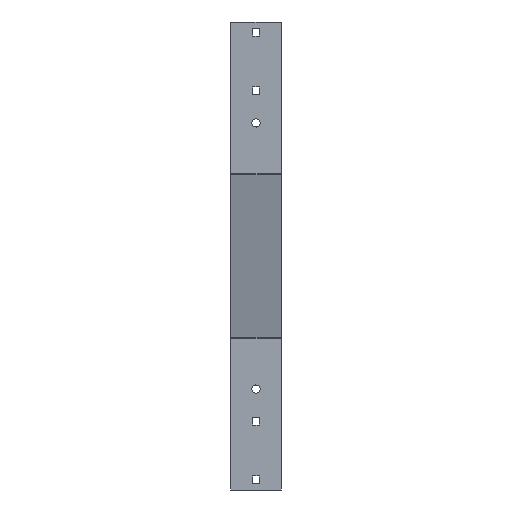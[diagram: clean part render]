
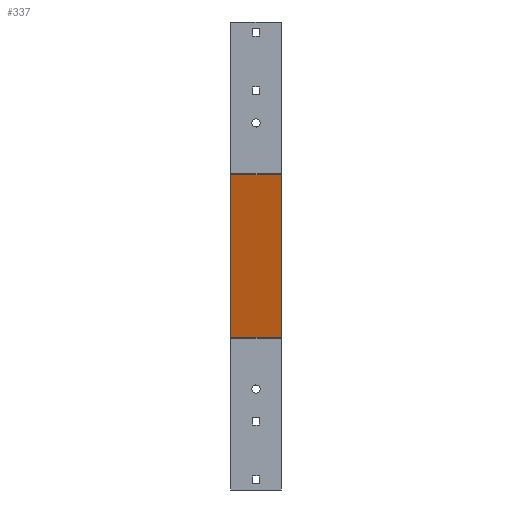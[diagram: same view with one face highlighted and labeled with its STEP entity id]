
A CAD part, left-side view. The second image highlights one B-rep face of the part: STEP entity #337.
In plain terms, the highlighted planar face has unit normal (-0.966, 0, -0.259) as drawn and (0.966, 0, -0.259) by its records, which use the part's own axes.
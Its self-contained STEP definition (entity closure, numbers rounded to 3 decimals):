
#276 = DIRECTION ( 'NONE',  ( 0., 1., 0. ) ) ;
#337 = ADVANCED_FACE ( 'NONE', ( #1708 ), #7874, .F. ) ;
#368 = VECTOR ( 'NONE', #7148, 1000. ) ;
#475 = CARTESIAN_POINT ( 'NONE',  ( 226.881, 0., -0.708 ) ) ;
#867 = CARTESIAN_POINT ( 'NONE',  ( 226.881, 87., -0.708 ) ) ;
#994 = VECTOR ( 'NONE', #276, 1000. ) ;
#1058 = CARTESIAN_POINT ( 'NONE',  ( 226.881, 0., -0.708 ) ) ;
#1207 = LINE ( 'NONE', #4883, #6332 ) ;
#1485 = VECTOR ( 'NONE', #6609, 1000. ) ;
#1597 = DIRECTION ( 'NONE',  ( -0.966, 0., 0.259 ) ) ;
#1703 = LINE ( 'NONE', #4717, #368 ) ;
#1708 = FACE_OUTER_BOUND ( 'NONE', #2810, .T. ) ;
#1811 = DIRECTION ( 'NONE',  ( -0.259, 0., -0.966 ) ) ;
#2114 = CARTESIAN_POINT ( 'NONE',  ( 152.051, 0., -280.073 ) ) ;
#2180 = VERTEX_POINT ( 'NONE', #6608 ) ;
#2430 = AXIS2_PLACEMENT_3D ( 'NONE', #5995, #1597, #4043 ) ;
#2437 = EDGE_CURVE ( 'NONE', #4092, #2180, #1703, .T. ) ;
#2810 = EDGE_LOOP ( 'NONE', ( #6232, #5903, #5827, #5248 ) ) ;
#4043 = DIRECTION ( 'NONE',  ( 0.259, 0., 0.966 ) ) ;
#4092 = VERTEX_POINT ( 'NONE', #475 ) ;
#4519 = EDGE_CURVE ( 'NONE', #4092, #6713, #6569, .T. ) ;
#4717 = CARTESIAN_POINT ( 'NONE',  ( 226.932, 0., -0.517 ) ) ;
#4883 = CARTESIAN_POINT ( 'NONE',  ( 226.932, 87., -0.517 ) ) ;
#5248 = ORIENTED_EDGE ( 'NONE', *, *, #4519, .F. ) ;
#5541 = EDGE_CURVE ( 'NONE', #6713, #7080, #1207, .T. ) ;
#5827 = ORIENTED_EDGE ( 'NONE', *, *, #5541, .F. ) ;
#5902 = LINE ( 'NONE', #2114, #994 ) ;
#5903 = ORIENTED_EDGE ( 'NONE', *, *, #6855, .T. ) ;
#5995 = CARTESIAN_POINT ( 'NONE',  ( 226.932, 87., -0.517 ) ) ;
#6173 = CARTESIAN_POINT ( 'NONE',  ( 152.051, 87., -280.073 ) ) ;
#6232 = ORIENTED_EDGE ( 'NONE', *, *, #2437, .T. ) ;
#6332 = VECTOR ( 'NONE', #1811, 1000. ) ;
#6569 = LINE ( 'NONE', #1058, #1485 ) ;
#6608 = CARTESIAN_POINT ( 'NONE',  ( 152.051, 0., -280.073 ) ) ;
#6609 = DIRECTION ( 'NONE',  ( 0., 1., 0. ) ) ;
#6713 = VERTEX_POINT ( 'NONE', #867 ) ;
#6855 = EDGE_CURVE ( 'NONE', #2180, #7080, #5902, .T. ) ;
#7080 = VERTEX_POINT ( 'NONE', #6173 ) ;
#7148 = DIRECTION ( 'NONE',  ( -0.259, 0., -0.966 ) ) ;
#7874 = PLANE ( 'NONE',  #2430 ) ;
